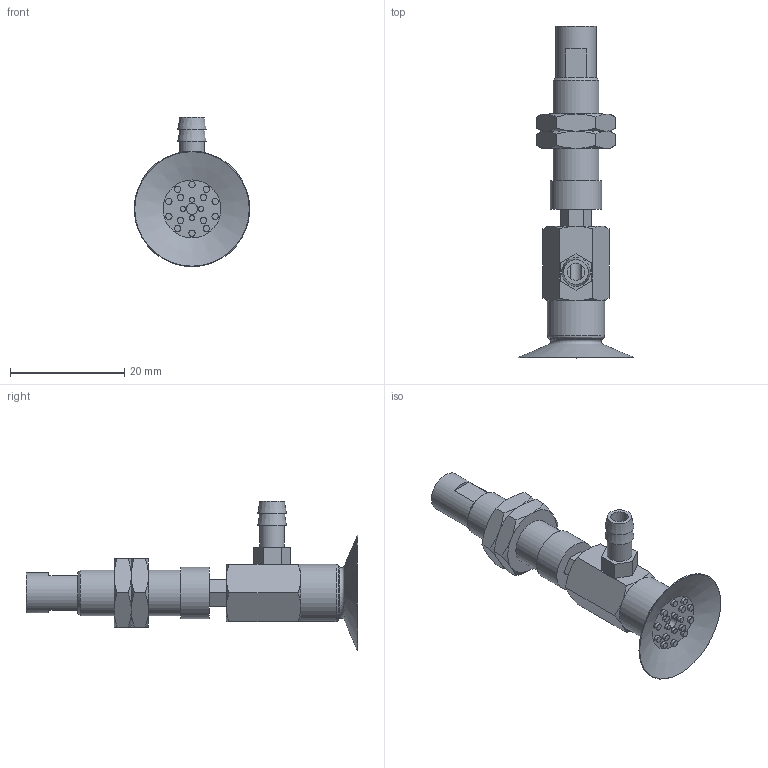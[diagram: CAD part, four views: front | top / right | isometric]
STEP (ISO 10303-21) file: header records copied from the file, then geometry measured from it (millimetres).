
FILE_DESCRIPTION(('STEP AP203'),'1');
FILE_NAME('-T.stp','2025-03-13T03:22:01',(' '),(' '),'Spatial InterOp 3D',' ',' ');
FILE_SCHEMA(('CONFIG_CONTROL_DESIGN'));
Length unit declared in the file: millimetre
Products named in the file (7): BNABPAYH-20A-3-※-T; NAPATH-20A-3--M; NAPATH-20A-3--F; Nut-10A-S; CONNECTOR-20A-3-PA; CONNECTOR-10A-3-T-PA; BPAG-20A-※
Assembly tree (7 placements, depth 2):
  BNABPAYH-20A-3-※-T
    NAPATH-20A-3--M
    NAPATH-20A-3--F
    Nut-10A-S  x2
    CONNECTOR-20A-3-PA
    CONNECTOR-10A-3-T-PA
    BPAG-20A-※
Bounding box: 20.19 x 58 x 26.09 mm (x, y, z)
Volume: 3883.1 mm3; surface area: 5088.7 mm2
Topology: 7 solids, 7 shells, 193 faces, 390 edges, 242 vertices
Faces by surface type: plane 93, cone 54, cylinder 36, torus 10
Full cylindrical faces by diameter (mm): 0.9 x4, 1.1 x14, 2 x2, 3 x1, 4 x2, 4.134 x2, 4.3 x1, 5 x2, 6 x2, 7 x1, 7.188 x2, 8 x1, 9 x1, 10 x1
Entity records: 4646 total; most frequent: CARTESIAN_POINT 1006, DIRECTION 702, ORIENTED_EDGE 548, AXIS2_PLACEMENT_3D 304, EDGE_CURVE 274, EDGE_LOOP 272, FACE_OUTER_BOUND 215, VERTEX_POINT 206
